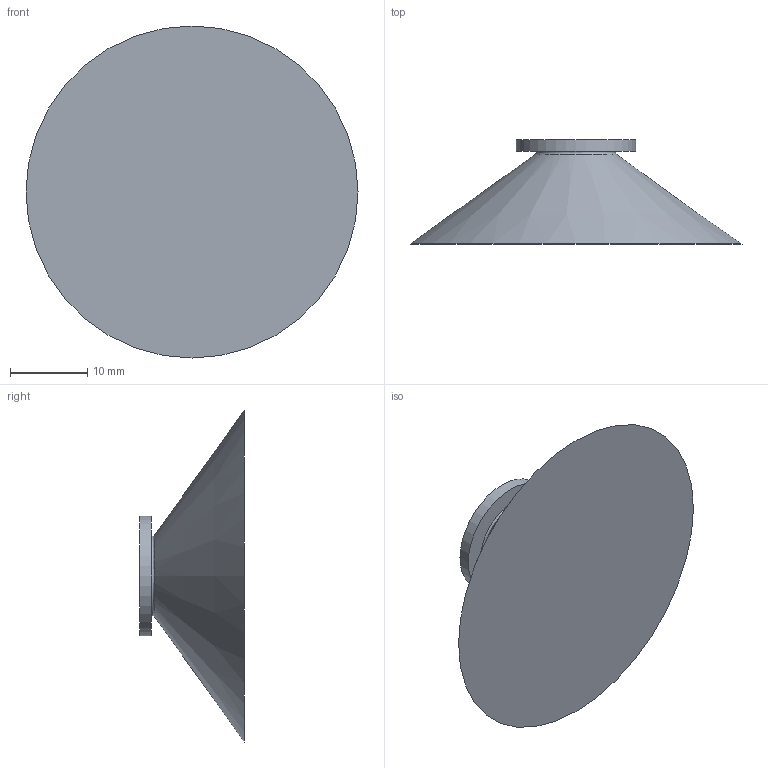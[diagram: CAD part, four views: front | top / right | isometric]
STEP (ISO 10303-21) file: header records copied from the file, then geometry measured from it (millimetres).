
FILE_DESCRIPTION((''),'2;1');
FILE_NAME('W:\Technik\Konstruktion\CAD-Daten\Kundenmodelle\102.043.170_Kd.stp','2010-09-24T16:46:44',('WMiller'),(''),'Autodesk Inventor 2009','Autodesk Inventor 2009','');
FILE_SCHEMA(('AUTOMOTIVE_DESIGN { 1 0 10303 214 1 1 1 1 }'));
Length unit declared in the file: millimetre
Products named in the file (1): 102.043
Bounding box: 43 x 13.5 x 43 mm (x, y, z)
Volume: 7652 mm3; surface area: 3509 mm2
Topology: 1 solids, 1 shells, 6 faces, 8 edges, 5 vertices
Faces by surface type: plane 3, cone 1, bspline 1, cylinder 1
Full cylindrical faces by diameter (mm): 15.5 x1
Entity records: 216 total; most frequent: CARTESIAN_POINT 97, DIRECTION 22, AXIS2_PLACEMENT_3D 11, ORIENTED_EDGE 10, EDGE_LOOP 10, FACE_OUTER_BOUND 6, ADVANCED_FACE 6, VERTEX_POINT 5
